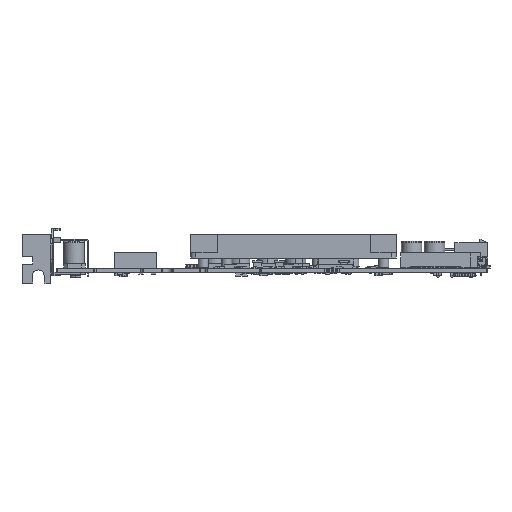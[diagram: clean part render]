
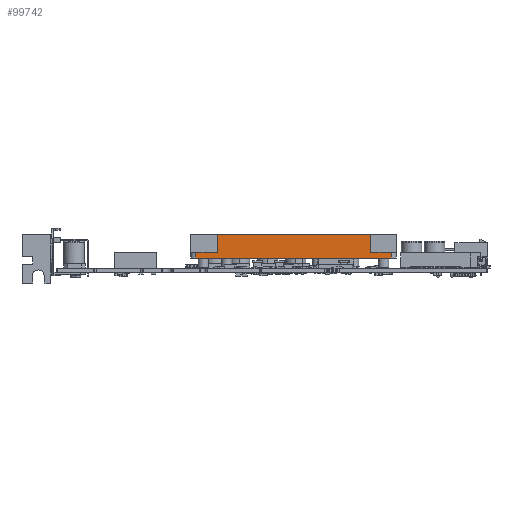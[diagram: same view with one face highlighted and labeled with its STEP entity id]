
A CAD part, left-side view. The second image highlights one B-rep face of the part: STEP entity #99742.
In plain terms, the highlighted planar face has unit normal (-1, 0, 0) as drawn and (0, 0, 1) by its records, which use the part's own axes.
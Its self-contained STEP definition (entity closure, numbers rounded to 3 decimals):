
#97806=DIRECTION('',(0.,-1.,0.));
#97807=VECTOR('',#97806,76.);
#97808=CARTESIAN_POINT('',(0.,-2.,0.));
#97809=LINE('',#97808,#97807);
#98115=DIRECTION('',(0.,-1.,0.));
#98116=VECTOR('',#98115,8.);
#98117=CARTESIAN_POINT('',(2.3,-70.,0.));
#98118=LINE('',#98117,#98116);
#98131=DIRECTION('',(0.,-1.,0.));
#98132=VECTOR('',#98131,8.5);
#98133=CARTESIAN_POINT('',(2.3,-2.,0.));
#98134=LINE('',#98133,#98132);
#98193=DIRECTION('',(0.,-1.,0.));
#98194=VECTOR('',#98193,59.5);
#98195=CARTESIAN_POINT('',(9.3,-10.5,0.));
#98196=LINE('',#98195,#98194);
#98449=DIRECTION('',(-1.,0.,0.));
#98450=VECTOR('',#98449,2.3);
#98451=CARTESIAN_POINT('',(2.3,-2.,0.));
#98452=LINE('',#98451,#98450);
#98453=DIRECTION('',(1.,0.,0.));
#98454=VECTOR('',#98453,7.);
#98455=CARTESIAN_POINT('',(2.3,-10.5,0.));
#98456=LINE('',#98455,#98454);
#98457=DIRECTION('',(-1.,0.,0.));
#98458=VECTOR('',#98457,2.3);
#98459=CARTESIAN_POINT('',(2.3,-78.,0.));
#98460=LINE('',#98459,#98458);
#98701=DIRECTION('',(1.,0.,0.));
#98702=VECTOR('',#98701,7.);
#98703=CARTESIAN_POINT('',(2.3,-70.,0.));
#98704=LINE('',#98703,#98702);
#98745=CARTESIAN_POINT('',(9.3,-10.5,0.));
#98746=CARTESIAN_POINT('',(9.3,-70.,0.));
#98747=VERTEX_POINT('',#98745);
#98748=VERTEX_POINT('',#98746);
#98761=CARTESIAN_POINT('',(2.3,-70.,0.));
#98763=VERTEX_POINT('',#98761);
#98767=CARTESIAN_POINT('',(2.3,-10.5,0.));
#98768=VERTEX_POINT('',#98767);
#99033=CARTESIAN_POINT('',(0.,-2.,0.));
#99035=VERTEX_POINT('',#99033);
#99039=CARTESIAN_POINT('',(2.3,-2.,0.));
#99040=VERTEX_POINT('',#99039);
#99041=CARTESIAN_POINT('',(0.,-78.,0.));
#99042=VERTEX_POINT('',#99041);
#99047=CARTESIAN_POINT('',(2.3,-78.,0.));
#99048=VERTEX_POINT('',#99047);
#99723=CARTESIAN_POINT('',(0.,0.,0.));
#99724=DIRECTION('',(0.,0.,1.));
#99725=DIRECTION('',(0.,-1.,0.));
#99726=AXIS2_PLACEMENT_3D('',#99723,#99724,#99725);
#99727=PLANE('',#99726);
#99729=ORIENTED_EDGE('',*,*,#99728,.F.);
#99730=ORIENTED_EDGE('',*,*,#99340,.T.);
#99732=ORIENTED_EDGE('',*,*,#99731,.T.);
#99733=ORIENTED_EDGE('',*,*,#99476,.T.);
#99735=ORIENTED_EDGE('',*,*,#99734,.F.);
#99736=ORIENTED_EDGE('',*,*,#99332,.T.);
#99738=ORIENTED_EDGE('',*,*,#99737,.T.);
#99739=ORIENTED_EDGE('',*,*,#99072,.F.);
#99740=EDGE_LOOP('',(#99729,#99730,#99732,#99733,#99735,#99736,#99738,#99739));
#99741=FACE_OUTER_BOUND('',#99740,.F.);
#99742=ADVANCED_FACE('',(#99741),#99727,.T.);
#99072=EDGE_CURVE('',#99035,#99042,#97809,.T.);
#99332=EDGE_CURVE('',#98763,#99048,#98118,.T.);
#99340=EDGE_CURVE('',#99040,#98768,#98134,.T.);
#99476=EDGE_CURVE('',#98747,#98748,#98196,.T.);
#99728=EDGE_CURVE('',#99040,#99035,#98452,.T.);
#99731=EDGE_CURVE('',#98768,#98747,#98456,.T.);
#99734=EDGE_CURVE('',#98763,#98748,#98704,.T.);
#99737=EDGE_CURVE('',#99048,#99042,#98460,.T.);
